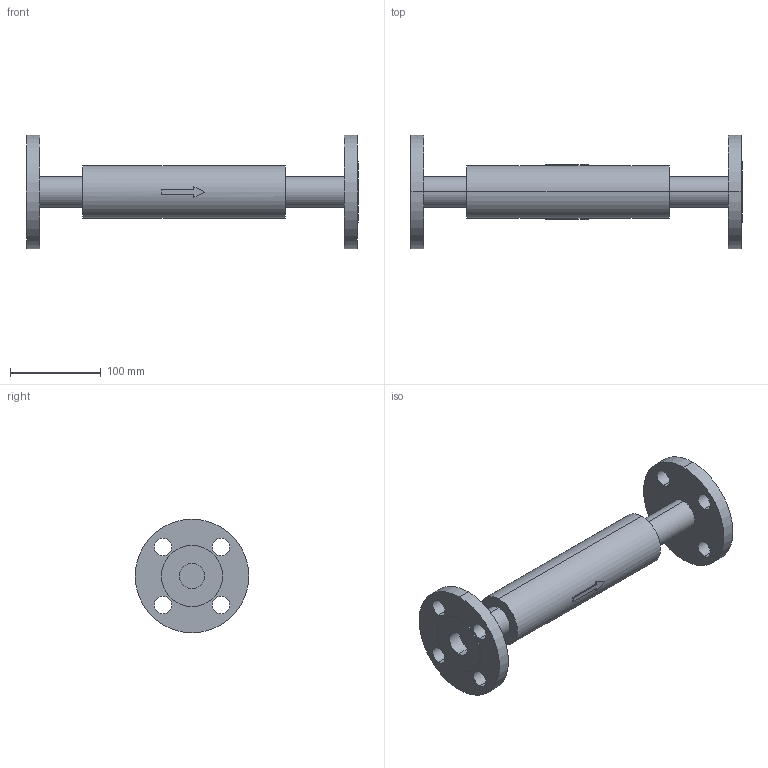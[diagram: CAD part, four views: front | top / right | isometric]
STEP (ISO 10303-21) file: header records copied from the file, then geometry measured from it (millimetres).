
FILE_DESCRIPTION( (''), '2;1');
FILE_NAME ('PC1027.10420.EB-1J　25A_18826.stp','2025-07-29T12:52:39',(''),(''),'spGate 20.6.3 (****-****-****-****)','','');
FILE_SCHEMA (('AUTOMOTIVE_DESIGN'));
Length unit declared in the file: millimetre
Bounding box: 365 x 125 x 125 mm (x, y, z)
Volume: 995540.1 mm3; surface area: 119892.8 mm2
Topology: 1 solids, 1 shells, 60 faces, 146 edges, 98 vertices
Faces by surface type: cylinder 34, plane 26
Entity records: 2989 total; most frequent: CARTESIAN_POINT 346, DIRECTION 304, ORIENTED_EDGE 292, COLOUR_RGB 207, PRESENTATION_STYLE_ASSIGNMENT 207, STYLED_ITEM 207, EDGE_CURVE 146, DRAUGHTING_PRE_DEFINED_CURVE_FONT 146
